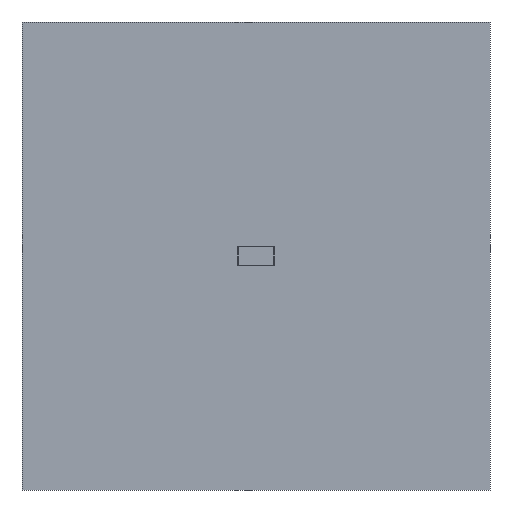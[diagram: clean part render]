
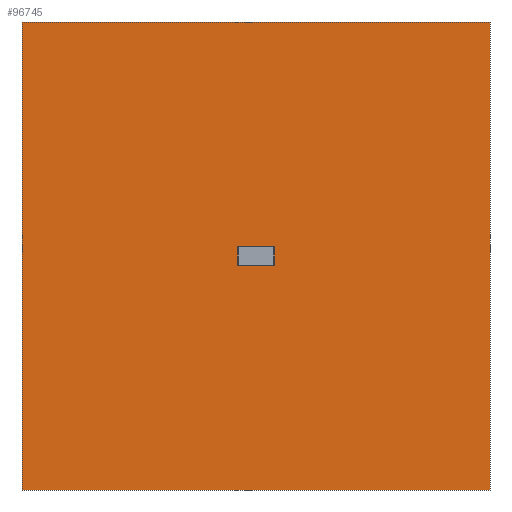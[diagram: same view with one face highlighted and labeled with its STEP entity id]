
A CAD part, front view. The second image highlights one B-rep face of the part: STEP entity #96745.
In plain terms, the highlighted planar face has unit normal (0, -1, 0).
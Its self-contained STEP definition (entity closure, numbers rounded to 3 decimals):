
#1327=FACE_BOUND('',#13048,.T.);
#6513=FACE_OUTER_BOUND('',#13047,.T.);
#13047=EDGE_LOOP('',(#86079,#86080,#86081,#86082));
#13048=EDGE_LOOP('',(#86083,#86084,#86085,#86086));
#26056=LINE('',#151536,#39128);
#26060=LINE('',#151545,#39132);
#26063=LINE('',#151549,#39135);
#26065=LINE('',#151552,#39137);
#26069=LINE('',#151562,#39141);
#26070=LINE('',#151564,#39142);
#26071=LINE('',#151566,#39143);
#26072=LINE('',#151567,#39144);
#39128=VECTOR('',#125382,10.);
#39132=VECTOR('',#125388,10.);
#39135=VECTOR('',#125393,10.);
#39137=VECTOR('',#125397,10.);
#39141=VECTOR('',#125405,10.);
#39142=VECTOR('',#125406,10.);
#39143=VECTOR('',#125407,10.);
#39144=VECTOR('',#125408,10.);
#47023=VERTEX_POINT('',#151533);
#47024=VERTEX_POINT('',#151535);
#47027=VERTEX_POINT('',#151542);
#47028=VERTEX_POINT('',#151544);
#47031=VERTEX_POINT('',#151560);
#47032=VERTEX_POINT('',#151561);
#47033=VERTEX_POINT('',#151563);
#47034=VERTEX_POINT('',#151565);
#60052=EDGE_CURVE('',#47023,#47024,#26056,.T.);
#60056=EDGE_CURVE('',#47027,#47028,#26060,.T.);
#60059=EDGE_CURVE('',#47023,#47028,#26063,.T.);
#60061=EDGE_CURVE('',#47027,#47024,#26065,.T.);
#60065=EDGE_CURVE('',#47031,#47032,#26069,.T.);
#60066=EDGE_CURVE('',#47032,#47033,#26070,.T.);
#60067=EDGE_CURVE('',#47033,#47034,#26071,.T.);
#60068=EDGE_CURVE('',#47034,#47031,#26072,.T.);
#86079=ORIENTED_EDGE('',*,*,#60059,.T.);
#86080=ORIENTED_EDGE('',*,*,#60056,.F.);
#86081=ORIENTED_EDGE('',*,*,#60061,.T.);
#86082=ORIENTED_EDGE('',*,*,#60052,.F.);
#86083=ORIENTED_EDGE('',*,*,#60065,.T.);
#86084=ORIENTED_EDGE('',*,*,#60066,.T.);
#86085=ORIENTED_EDGE('',*,*,#60067,.T.);
#86086=ORIENTED_EDGE('',*,*,#60068,.T.);
#91503=PLANE('',#102010);
#96745=ADVANCED_FACE('',(#6513,#1327),#91503,.T.);
#102010=AXIS2_PLACEMENT_3D('',#151559,#125403,#125404);
#125382=DIRECTION('',(0.,0.,1.));
#125388=DIRECTION('',(0.,0.,-1.));
#125393=DIRECTION('',(1.,0.,0.));
#125397=DIRECTION('',(-1.,0.,0.));
#125403=DIRECTION('center_axis',(0.,-1.,0.));
#125404=DIRECTION('ref_axis',(0.,0.,-1.));
#125405=DIRECTION('',(0.,0.,-1.));
#125406=DIRECTION('',(-1.,0.,0.));
#125407=DIRECTION('',(0.,0.,1.));
#125408=DIRECTION('',(1.,0.,0.));
#151533=CARTESIAN_POINT('',(-1000.,-1000.,-1000.));
#151535=CARTESIAN_POINT('',(-1000.,-1000.,1400.));
#151536=CARTESIAN_POINT('',(-1000.,-1000.,400.));
#151542=CARTESIAN_POINT('',(1400.,-1000.,1400.));
#151544=CARTESIAN_POINT('',(1400.,-1000.,-1000.));
#151545=CARTESIAN_POINT('',(1400.,-1000.,0.));
#151549=CARTESIAN_POINT('',(400.,-1000.,-1000.));
#151552=CARTESIAN_POINT('',(0.,-1000.,1400.));
#151559=CARTESIAN_POINT('Origin',(200.,-1000.,200.));
#151560=CARTESIAN_POINT('',(293.,-1000.,248.35));
#151561=CARTESIAN_POINT('',(293.,-1000.,151.65));
#151562=CARTESIAN_POINT('',(293.,-1000.,224.175));
#151563=CARTESIAN_POINT('',(107.,-1000.,151.65));
#151564=CARTESIAN_POINT('',(246.5,-1000.,151.65));
#151565=CARTESIAN_POINT('',(107.,-1000.,248.35));
#151566=CARTESIAN_POINT('',(107.,-1000.,175.825));
#151567=CARTESIAN_POINT('',(153.5,-1000.,248.35));
